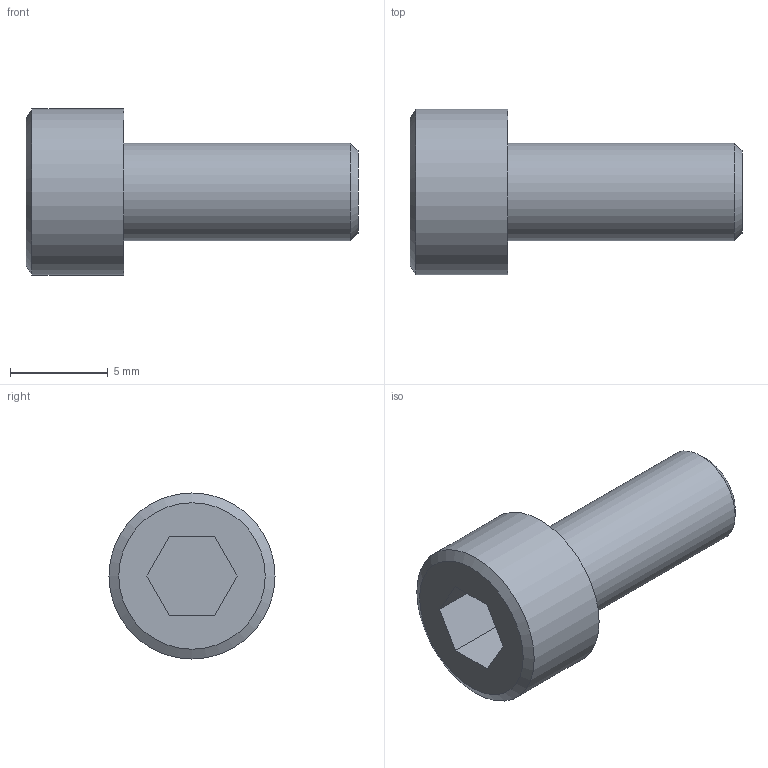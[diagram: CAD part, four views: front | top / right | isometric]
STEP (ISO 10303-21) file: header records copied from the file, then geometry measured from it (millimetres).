
FILE_DESCRIPTION( ( 'STEP AP203' ), '1' );
FILE_NAME( 'C:/CS-05.stp', '2013-10-20T23:44:20', ( ' ' ), ( ' ' ), 'XStep 1.0', ' ', ' ' );
FILE_SCHEMA( ( 'CONFIG_CONTROL_DESIGN' ) );
Length unit declared in the file: metre
Products named in the file (1): 1
Bounding box: 17 x 8.5 x 8.5 mm (x, y, z)
Volume: 472.5 mm3; surface area: 475.1 mm2
Topology: 1 solids, 1 shells, 14 faces, 28 edges, 18 vertices
Faces by surface type: bspline 14
Entity records: 448 total; most frequent: CARTESIAN_POINT 169, ORIENTED_EDGE 48, DIRECTION 30, EDGE_CURVE 24, EDGE_LOOP 20, FACE_OUTER_BOUND 18, VERTEX_POINT 18, LINE 16
